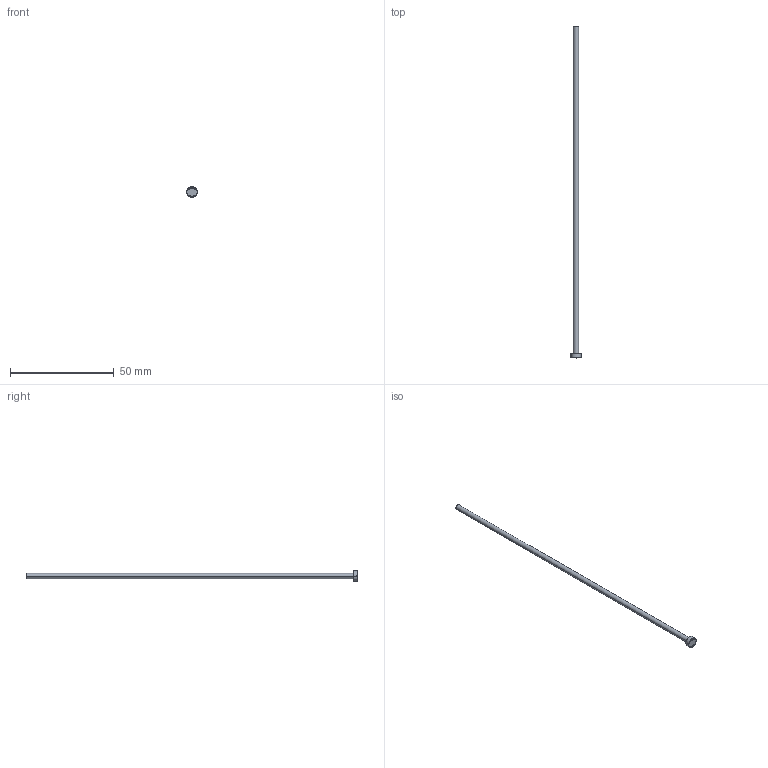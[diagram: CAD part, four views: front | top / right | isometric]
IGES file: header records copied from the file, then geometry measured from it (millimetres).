
Start section: SolidWorks IGES file using analytic representation for surfaces
Global section: file name: C:\Users\User\Downloads\Matripeça 31-08 tar\PB - PINO EXTRATOR TIPO _B_ (CATÁLOGO)\PB02,5\PB02,5160.IGS; native system: SolidWorks 2024; preprocessor: SolidWorks 2024; author: User; date: 260901.141020; units: millimetre
Bounding box: 5 x 160 x 5 mm (x, y, z)
Surface area: 1314.6 mm2 (no closed solid volume)
Topology: 0 solids, 0 shells, 401 faces, 3028 edges, 3028 vertices
Faces by surface type: bspline 387, revolution 14
